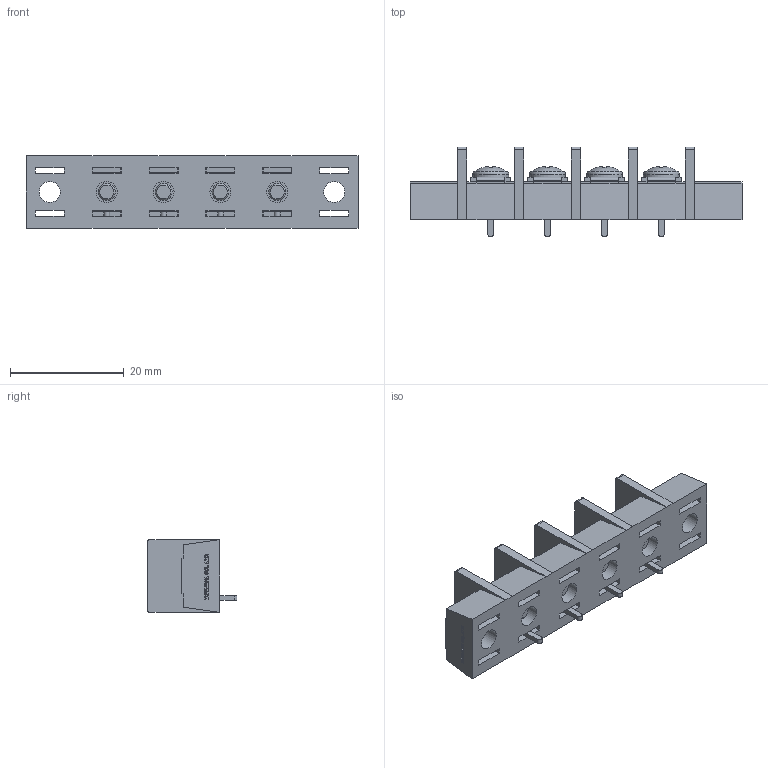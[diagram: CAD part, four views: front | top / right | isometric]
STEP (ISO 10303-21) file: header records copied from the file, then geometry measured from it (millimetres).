
FILE_DESCRIPTION(/* description */ ('Alibre Inc.'),/* implementation_level */ '2;1');
FILE_NAME(/* name */ 'export0',/* time_stamp */ '2015-10-22T19:48:35+09:00',/* author */ (''),/* organization */ (''),/* preprocessor_version */ 'ST-DEVELOPER v14',/* originating_system */ 'Alibre',/* authorisation */ '');
FILE_SCHEMA (('CONFIG_CONTROL_DESIGN'));
Length unit declared in the file: centimetre
Products named in the file (1): ID_1
Bounding box: 58.4 x 15.8 x 12.8 mm (x, y, z)
Volume: 4905.1 mm3; surface area: 5631.1 mm2
Topology: 1 solids, 69 shells, 1536 faces, 3970 edges, 2630 vertices
Faces by surface type: plane 1146, bspline 312, cylinder 46, cone 20, torus 8, sphere 4
Full cylindrical faces by diameter (mm): 3 x8, 3.7 x6, 4.6 x6, 6.3 x4
Entity records: 44759 total; most frequent: CARTESIAN_POINT 10891, ORIENTED_EDGE 7840, DIRECTION 4638, EDGE_CURVE 3920, VECTOR 3038, LINE 3038, VERTEX_POINT 2616, EDGE_LOOP 1698
